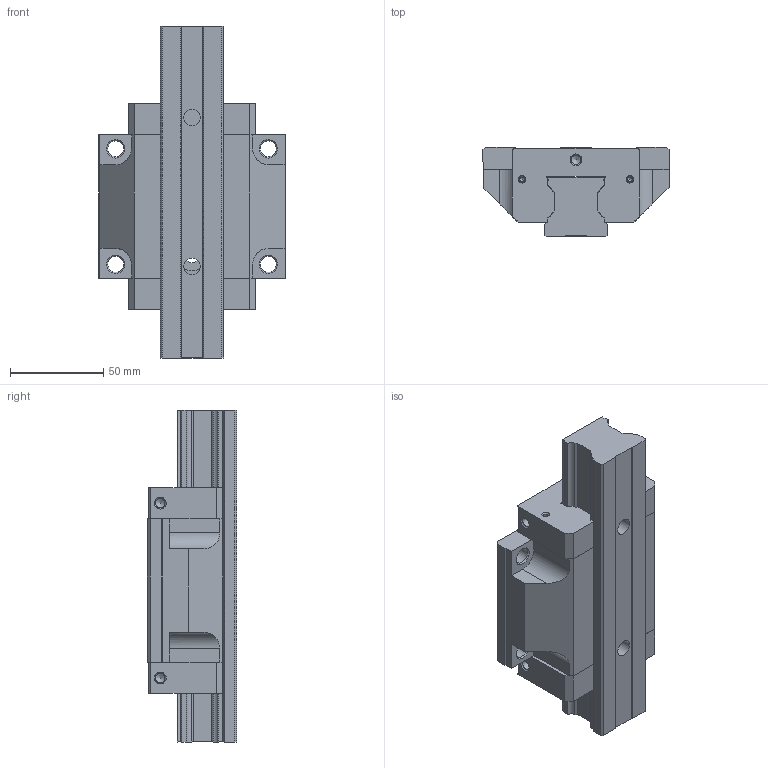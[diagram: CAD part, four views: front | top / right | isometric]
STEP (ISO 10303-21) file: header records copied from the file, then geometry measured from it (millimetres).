
FILE_DESCRIPTION(/* description */ ('Unknown'),/* implementation_level */ '2;1');
FILE_NAME(/* name */ 'SIZE35',/* time_stamp */ '2019-11-14T14:18:43-05:00',/* author */ ('Unknown'),/* organization */ ('Unknown'),/* preprocessor_version */ 'ST-DEVELOPER v16.7',/* originating_system */ 'Solid Edge',/* authorisation */ 'Unknown');
FILE_SCHEMA (('AUTOMOTIVE_DESIGN {1 0 10303 214 3 1 1}'));
Length unit declared in the file: millimetre
Products named in the file (5): SIZE35; Rexroth-R1651-314-20; RUSIZE_06061659482595; SW16RAIL-SZ35-R160530431_3836; R160530431_3836_1
Assembly tree (4 placements, depth 3):
  SIZE35
    Rexroth-R1651-314-20
      RUSIZE_06061659482595
    SW16RAIL-SZ35-R160530431_3836
      R160530431_3836_1
Bounding box: 100 x 48 x 178.36 mm (x, y, z)
Volume: 424453.3 mm3; surface area: 70753.2 mm2
Topology: 2 solids, 2 shells, 188 faces, 505 edges, 329 vertices
Faces by surface type: plane 116, cylinder 42, cone 30
Full cylindrical faces by diameter (mm): 0.8 x2, 2.5 x4, 5 x8, 8.5 x6, 9 x2, 15 x2, 17 x2
Entity records: 6554 total; most frequent: CARTESIAN_POINT 931, DIRECTION 914, ORIENTED_EDGE 848, EDGE_CURVE 424, LINE 320, VECTOR 320, VERTEX_POINT 314, AXIS2_PLACEMENT_3D 297
